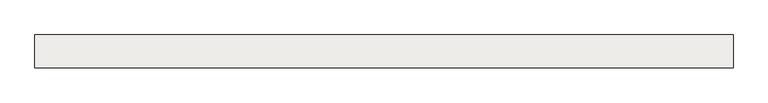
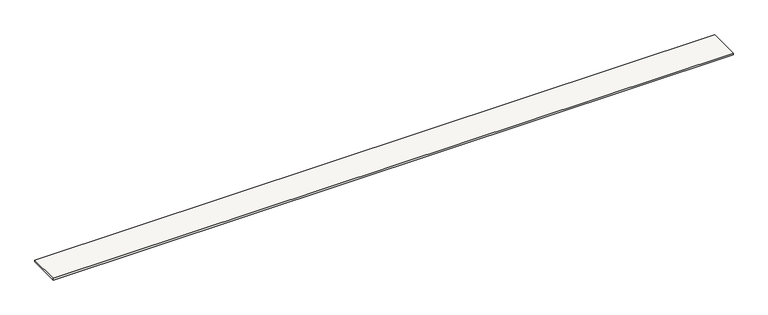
"""IFC4 building model written with IfcOpenShell, lengths in millimetres: slab geometry, Sol-02 - Tablette bois 2cm."""

import ifcopenshell
import ifcopenshell.guid

model = None  # the IFC model being written
_history = None  # IfcOwnerHistory: only IFC2X3 demands one
_inside = {}  # id of a spatial element -> (the spatial element, [elements in it])
_under = {}  # id of a project, library or spatial element -> (it, [spatial elements below it])
_declared = {}  # id of a project -> (the project, [libraries it declares])
_typed = {}  # id of a type object -> (the type object, [elements of that type])
_made_of = {}  # id of a material, layer set ... -> (it, [elements and type objects made of it])


def new_model(schema):
    """Start an empty IFC model of exactly this schema.

    Asked for "IFC4X3", IfcOpenShell would pick the latest addendum, in which some entities
    have other attributes; the version numbers below select the first issue.
    IFC2X3 requires an IfcOwnerHistory on every rooted entity: one is made here for all.
    """
    global model, _history
    if schema == "IFC4X3":
        model = ifcopenshell.file(schema_version=(4, 3, 0, 0))
    else:
        model = ifcopenshell.file(schema=schema)
    _inside.clear()
    _under.clear()
    _declared.clear()
    _typed.clear()
    _made_of.clear()
    _history = None
    if model.schema == "IFC2X3":
        org = make("IfcOrganization", Name="unknown")
        user = make(
            "IfcPersonAndOrganization",
            ThePerson=make("IfcPerson", FamilyName="unknown"),
            TheOrganization=org,
        )
        app = make(
            "IfcApplication",
            ApplicationDeveloper=org,
            Version="unknown",
            ApplicationFullName="unknown",
            ApplicationIdentifier="unknown",
        )
        _history = make(
            "IfcOwnerHistory",
            OwningUser=user,
            OwningApplication=app,
            ChangeAction="ADDED",
            CreationDate=0,
        )
    return model


def make(cls, **values):
    """One entity of the class cls with the attributes given. An attribute that is None is left unset."""
    return model.create_entity(
        cls, **{name: value for name, value in values.items() if value is not None}
    )


def rooted(cls, **values):
    """An entity with a GlobalId (a new one), such as an element, a storey or a relation."""
    return make(cls, GlobalId=ifcopenshell.guid.new(), OwnerHistory=_history, **values)


def si_unit(unit_type, name, prefix=None):
    """IfcSIUnit, for example si_unit("LENGTHUNIT", "METRE", prefix="MILLI")."""
    return make("IfcSIUnit", UnitType=unit_type, Prefix=prefix, Name=name)


def assignment(units):
    """IfcUnitAssignment: the units of a project."""
    return None if units is None else make("IfcUnitAssignment", Units=units)


def point(xyz):
    """IfcCartesianPoint."""
    return None if xyz is None else make("IfcCartesianPoint", Coordinates=xyz)


def direction(xyz):
    """IfcDirection."""
    return None if xyz is None else make("IfcDirection", DirectionRatios=xyz)


def frame(location, z_axis=None, x_axis=None):
    """IfcAxis2Placement3D, a coordinate frame: its origin and axes. An axis left out is left unset."""
    return make(
        "IfcAxis2Placement3D",
        Location=point(location),
        Axis=direction(z_axis),
        RefDirection=direction(x_axis),
    )


def origin():
    """The frame at (0, 0, 0) with its axes left unset."""
    return frame((0.0, 0.0, 0.0))


def origin_with_axes():
    """The frame at (0, 0, 0) with the z axis (0, 0, 1) and the x axis (1, 0, 0) written out."""
    return frame((0.0, 0.0, 0.0), z_axis=(0.0, 0.0, 1.0), x_axis=(1.0, 0.0, 0.0))


def place(relative_to, where):
    """IfcLocalPlacement: puts the frame where relative to a parent placement (None: the world)."""
    return make(
        "IfcLocalPlacement", PlacementRelTo=relative_to, RelativePlacement=where
    )


def context(
    kind, dimensions, precision=None, world=None, true_north=None, identifier=None
):
    """IfcGeometricRepresentationContext, for example the 3D "Model" context."""
    return make(
        "IfcGeometricRepresentationContext",
        ContextIdentifier=identifier,
        ContextType=kind,
        CoordinateSpaceDimension=dimensions,
        Precision=precision,
        WorldCoordinateSystem=world,
        TrueNorth=true_north,
    )


def project(units=None, contexts=None):
    """IfcProject with its units and contexts."""
    return rooted(
        "IfcProject",
        Name="project",
        RepresentationContexts=contexts,
        UnitsInContext=assignment(units),
    )


def spatial(cls, under=None, at=None, **own):
    """A site, building, storey or space (cls), placed at a placement, below another one or the project."""
    s = rooted(cls, ObjectPlacement=at, **own)
    if under is not None:
        _under.setdefault(under.id(), (under, []))[1].append(s)
    return s


def polyline(points):
    """IfcPolyline through the points."""
    return make("IfcPolyline", Points=[point(p) for p in points])


def outline(outer, holes=None, kind="AREA"):
    """IfcArbitraryClosedProfileDef: a profile drawn as a closed curve; with holes, ...WithVoids."""
    if holes is None:
        return make("IfcArbitraryClosedProfileDef", ProfileType=kind, OuterCurve=outer)
    return make(
        "IfcArbitraryProfileDefWithVoids",
        ProfileType=kind,
        OuterCurve=outer,
        InnerCurves=holes,
    )


def extrude(swept, where, along, depth):
    """IfcExtrudedAreaSolid: the profile swept, set in the frame where, extruded along a direction by depth."""
    return make(
        "IfcExtrudedAreaSolid",
        SweptArea=swept,
        Position=where,
        ExtrudedDirection=direction(along),
        Depth=depth,
    )


def shape(context_of_items, identifier, shape_type, items):
    """IfcShapeRepresentation: the items that make up one representation, for example the "Body"."""
    return make(
        "IfcShapeRepresentation",
        ContextOfItems=context_of_items,
        RepresentationIdentifier=identifier,
        RepresentationType=shape_type,
        Items=items,
    )


def source(mapping_origin, context_of_items, identifier, shape_type, items):
    """IfcRepresentationMap: a shape defined once, which mapped items show again and again."""
    return make(
        "IfcRepresentationMap",
        MappingOrigin=mapping_origin,
        MappedRepresentation=shape(context_of_items, identifier, shape_type, items),
    )


def transform(
    local_origin,
    x_axis=None,
    y_axis=None,
    z_axis=None,
    scale=None,
    scale2=None,
    scale3=None,
    uniform=True,
):
    """IfcCartesianTransformationOperator3D, or its non-uniform kind. x_axis, y_axis, z_axis: its Axis1, 2, 3."""
    if uniform:
        return make(
            "IfcCartesianTransformationOperator3D",
            Axis1=direction(x_axis),
            Axis2=direction(y_axis),
            LocalOrigin=point(local_origin),
            Scale=scale,
            Axis3=direction(z_axis),
        )
    return make(
        "IfcCartesianTransformationOperator3DnonUniform",
        Axis1=direction(x_axis),
        Axis2=direction(y_axis),
        LocalOrigin=point(local_origin),
        Scale=scale,
        Axis3=direction(z_axis),
        Scale2=scale2,
        Scale3=scale3,
    )


def mapped(mapping_source, mapping_target):
    """IfcMappedItem: shows the shape of a source again, moved by a transform."""
    return make(
        "IfcMappedItem", MappingSource=mapping_source, MappingTarget=mapping_target
    )


def made_of(thing, what):
    """Note that an element or type object is made of a material, layer set ...; save() writes the relation."""
    if what is not None:
        _made_of.setdefault(what.id(), (what, []))[1].append(thing)
    return thing


def element(
    cls,
    number,
    at=None,
    inside=None,
    cuts=None,
    type_object=None,
    material=None,
    context=None,
    identifier="Body",
    shape_type=None,
    held_by="IfcProductDefinitionShape",
    body=None,
    shapes=None,
    **own,
):
    """One element of the class cls, such as IfcWall. Its Tag is "e" and its number.

    at: its placement. inside: the storey or other place that contains it. cuts: it is an
    opening in that element (IfcRelVoidsElement). A single representation is given by context,
    identifier, shape_type and body (its items); several are given by shapes. held_by: the class
    of the entity that holds the representations. save() writes the other relations.
    """
    e = rooted(cls, Tag="e%d" % number, ObjectPlacement=at, **own)
    if body is not None:
        shapes = [shape(context, identifier, shape_type, body)]
    if shapes is not None:
        e.Representation = make(held_by, Representations=shapes)
    if inside is not None:
        _inside.setdefault(inside.id(), (inside, []))[1].append(e)
    if cuts is not None:
        rooted(
            "IfcRelVoidsElement", RelatingBuildingElement=cuts, RelatedOpeningElement=e
        )
    if type_object is not None:
        _typed.setdefault(type_object.id(), (type_object, []))[1].append(e)
    return made_of(e, material)


def aggregate(whole, parts):
    """IfcRelAggregates: a whole, such as a stair, and the parts it consists of."""
    return rooted("IfcRelAggregates", RelatingObject=whole, RelatedObjects=parts)


def save(model, path):
    """Write the relations noted so far, then the file.

    IfcRelAggregates (storeys below a building ...), IfcRelContainedInSpatialStructure (elements
    in a storey), IfcRelDefinesByType, IfcRelAssociatesMaterial and IfcRelDeclares: one each for
    every whole, place, type object, material and project.
    """
    for whole, parts in _under.values():
        aggregate(whole, parts)
    for where, things in _inside.values():
        rooted(
            "IfcRelContainedInSpatialStructure",
            RelatedElements=things,
            RelatingStructure=where,
        )
    for kind, things in _typed.values():
        rooted("IfcRelDefinesByType", RelatedObjects=things, RelatingType=kind)
    for what, things in _made_of.values():
        rooted("IfcRelAssociatesMaterial", RelatedObjects=things, RelatingMaterial=what)
    for by, libraries in _declared.values():
        rooted("IfcRelDeclares", RelatingContext=by, RelatedDefinitions=libraries)
    model.write(path)


def slab_b7c1f29e(model_context):
    return source(origin(), model_context, "Body", "SweptSolid", [
        extrude(outline(polyline([(47261.9999799, 10999.9999995), (39803.9999799, 10999.9999995), (39803.9999799, 11349.9999995), (47261.9999799, 11349.9999995), (47261.9999799, 10999.9999995)])), origin_with_axes(), (0.0, 0.0, 1.0), 20.0),
    ])


if __name__ == "__main__":
    model = new_model("IFC4")
    model_context = context("Model", 3, world=origin())
    ifc_project = project(units=[si_unit("LENGTHUNIT", "METRE", prefix="MILLI")], contexts=[model_context])
    site = spatial("IfcSite", under=ifc_project)
    building = spatial("IfcBuilding", under=site)
    placement = place(None, origin())
    slab_shape = slab_b7c1f29e(model_context)
    element("IfcSlab", 1, ObjectType="Sol-02 - Tablette bois 2cm", at=placement, inside=building, context=model_context, shape_type="MappedRepresentation", body=[
        mapped(slab_shape, transform((0.0, 0.0, 0.0), x_axis=(1.0, 0.0, 0.0), y_axis=(0.0, 1.0, 0.0), z_axis=(0.0, 0.0, 1.0))),
    ])
    save(model, "model.ifc")
